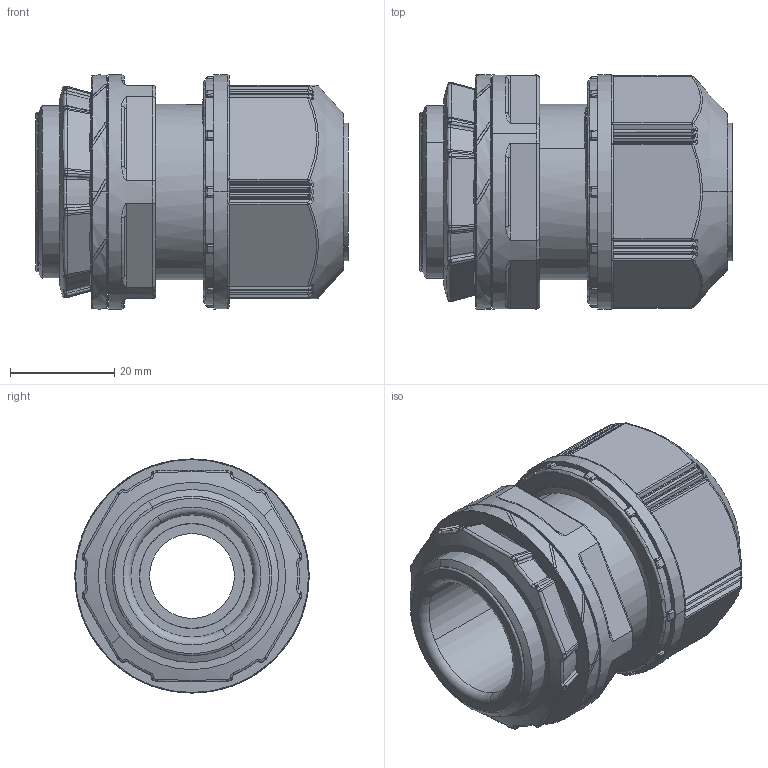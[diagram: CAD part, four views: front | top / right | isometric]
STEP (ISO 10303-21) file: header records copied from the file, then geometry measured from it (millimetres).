
FILE_DESCRIPTION(('Creo Elements/Direct Modeling STEP Export'),'2;1');
FILE_NAME('H17-0010-CL901-00_OA-W2820.stp','2017-12-07T17:05:37',(''),(''),'Creo Elements/Direct Modeling STEP processor for AP214 (Solid Model)','Creo Elements/Direct Modeling 20.0B 07-Aug-2017 (C) Parametric Technology GmbH','');
FILE_SCHEMA(('AUTOMOTIVE_DESIGN { 1 0 10303 214 1 1 1 1 }'));
Length unit declared in the file: millimetre
Products named in the file (6): Locknut; Kikuza O Ring; Nipple_etc; Rubber Bushing B; Rubber Bushing A; OA-W2820
Assembly tree (5 placements, depth 2):
  OA-W2820
    Rubber Bushing A
    Rubber Bushing B
    Nipple_etc
    Kikuza O Ring
    Locknut
Bounding box: 60 x 45 x 45 mm (x, y, z)
Volume: 54625.6 mm3; surface area: 28245.3 mm2
Topology: 5 solids, 5 shells, 829 faces, 2102 edges, 1293 vertices
Faces by surface type: bspline 396, cylinder 168, plane 153, torus 68, cone 44
Entity records: 52233 total; most frequent: CARTESIAN_POINT 36426, ORIENTED_EDGE 4204, EDGE_CURVE 2102, DIRECTION 1530, VERTEX_POINT 1293, B_SPLINE_CURVE_WITH_KNOTS 1062, EDGE_LOOP 849, FACE_OUTER_BOUND 829
